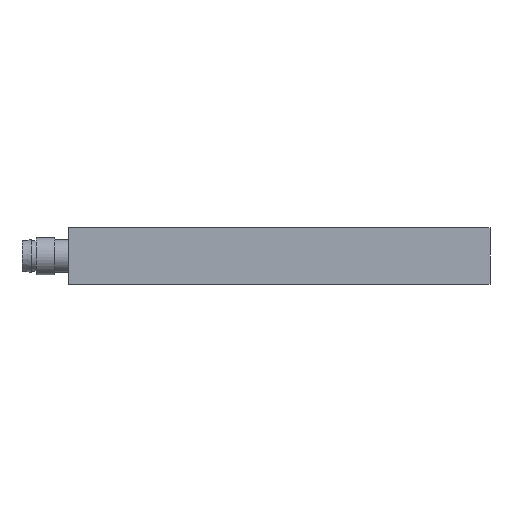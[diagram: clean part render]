
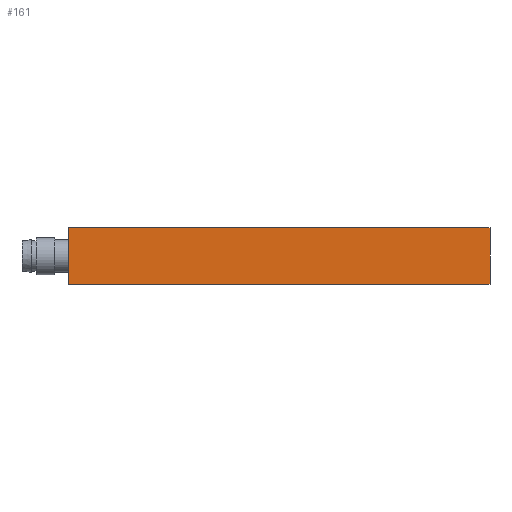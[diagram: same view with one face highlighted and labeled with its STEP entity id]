
A CAD part, front view. The second image highlights one B-rep face of the part: STEP entity #161.
In plain terms, the highlighted planar face has unit normal (0, -1, 0).
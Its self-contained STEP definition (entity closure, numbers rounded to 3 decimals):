
#60=PLANE('',#982);
#161=ADVANCED_FACE('',(#225),#60,.T.);
#225=FACE_OUTER_BOUND('',#295,.T.);
#295=EDGE_LOOP('',(#634,#635,#636,#637));
#329=LINE('',#1320,#393);
#359=LINE('',#1436,#423);
#366=LINE('',#1454,#430);
#381=LINE('',#1487,#445);
#393=VECTOR('',#1043,1.);
#423=VECTOR('',#1165,1.);
#430=VECTOR('',#1184,1.);
#445=VECTOR('',#1223,1.);
#634=ORIENTED_EDGE('',*,*,#770,.T.);
#635=ORIENTED_EDGE('',*,*,#833,.F.);
#636=ORIENTED_EDGE('',*,*,#824,.T.);
#637=ORIENTED_EDGE('',*,*,#848,.T.);
#687=VERTEX_POINT('',#1319);
#688=VERTEX_POINT('',#1321);
#727=VERTEX_POINT('',#1435);
#728=VERTEX_POINT('',#1437);
#770=EDGE_CURVE('',#688,#687,#329,.T.);
#824=EDGE_CURVE('',#728,#727,#359,.T.);
#833=EDGE_CURVE('',#728,#687,#366,.T.);
#848=EDGE_CURVE('',#727,#688,#381,.T.);
#982=AXIS2_PLACEMENT_3D('',#1489,#1226,#1227);
#1043=DIRECTION('',(-1.,0.,0.));
#1165=DIRECTION('',(1.,0.,0.));
#1184=DIRECTION('',(0.,0.,1.));
#1223=DIRECTION('',(0.,0.,1.));
#1226=DIRECTION('',(0.,-1.,0.));
#1227=DIRECTION('',(0.,0.,1.));
#1319=CARTESIAN_POINT('',(-36.46,-116.987,12.));
#1320=CARTESIAN_POINT('',(53.54,-116.987,12.));
#1321=CARTESIAN_POINT('',(53.54,-116.987,12.));
#1435=CARTESIAN_POINT('',(53.54,-116.987,0.));
#1436=CARTESIAN_POINT('',(-36.46,-116.987,0.));
#1437=CARTESIAN_POINT('',(-36.46,-116.987,0.));
#1454=CARTESIAN_POINT('',(-36.46,-116.987,0.));
#1487=CARTESIAN_POINT('',(53.54,-116.987,0.));
#1489=CARTESIAN_POINT('',(53.54,-116.987,0.));
